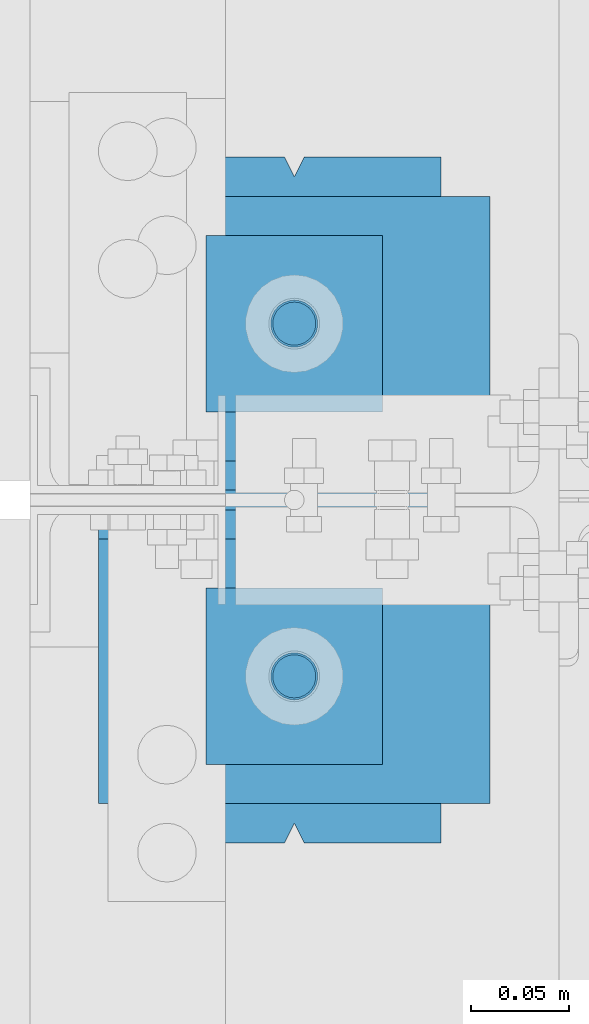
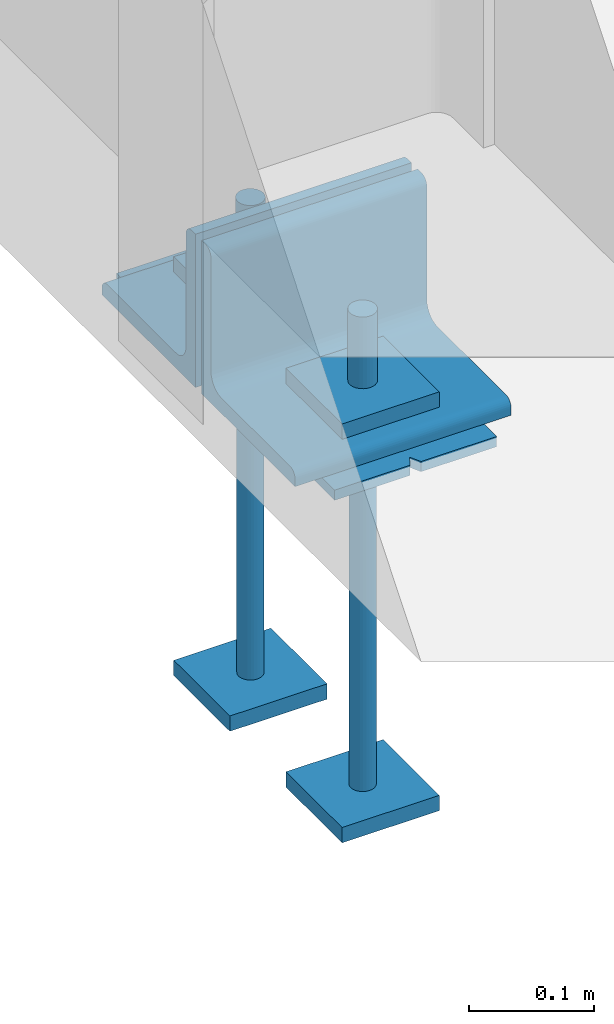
# One storey, part 65 of 362: 11 beams, 3 elements without a shape of their own.
"""IFC2X3 building model written with IfcOpenShell, lengths in millimetres."""

import ifcopenshell
import ifcopenshell.guid

model = None  # the IFC model being written
_history = None  # IfcOwnerHistory: only IFC2X3 demands one
_inside = {}  # id of a spatial element -> (the spatial element, [elements in it])
_under = {}  # id of a project, library or spatial element -> (it, [spatial elements below it])
_declared = {}  # id of a project -> (the project, [libraries it declares])
_typed = {}  # id of a type object -> (the type object, [elements of that type])
_made_of = {}  # id of a material, layer set ... -> (it, [elements and type objects made of it])


def new_model(schema):
    """Start an empty IFC model of exactly this schema.

    Asked for "IFC4X3", IfcOpenShell would pick the latest addendum, in which some entities
    have other attributes; the version numbers below select the first issue.
    IFC2X3 requires an IfcOwnerHistory on every rooted entity: one is made here for all.
    """
    global model, _history
    if schema == "IFC4X3":
        model = ifcopenshell.file(schema_version=(4, 3, 0, 0))
    else:
        model = ifcopenshell.file(schema=schema)
    _inside.clear()
    _under.clear()
    _declared.clear()
    _typed.clear()
    _made_of.clear()
    _history = None
    if model.schema == "IFC2X3":
        org = make("IfcOrganization", Name="unknown")
        user = make(
            "IfcPersonAndOrganization",
            ThePerson=make("IfcPerson", FamilyName="unknown"),
            TheOrganization=org,
        )
        app = make(
            "IfcApplication",
            ApplicationDeveloper=org,
            Version="unknown",
            ApplicationFullName="unknown",
            ApplicationIdentifier="unknown",
        )
        _history = make(
            "IfcOwnerHistory",
            OwningUser=user,
            OwningApplication=app,
            ChangeAction="ADDED",
            CreationDate=0,
        )
    return model


def make(cls, **values):
    """One entity of the class cls with the attributes given. An attribute that is None is left unset."""
    return model.create_entity(
        cls, **{name: value for name, value in values.items() if value is not None}
    )


def rooted(cls, **values):
    """An entity with a GlobalId (a new one), such as an element, a storey or a relation."""
    return make(cls, GlobalId=ifcopenshell.guid.new(), OwnerHistory=_history, **values)


def si_unit(unit_type, name, prefix=None):
    """IfcSIUnit, for example si_unit("LENGTHUNIT", "METRE", prefix="MILLI")."""
    return make("IfcSIUnit", UnitType=unit_type, Prefix=prefix, Name=name)


def assignment(units):
    """IfcUnitAssignment: the units of a project."""
    return None if units is None else make("IfcUnitAssignment", Units=units)


def point(xyz):
    """IfcCartesianPoint."""
    return None if xyz is None else make("IfcCartesianPoint", Coordinates=xyz)


def direction(xyz):
    """IfcDirection."""
    return None if xyz is None else make("IfcDirection", DirectionRatios=xyz)


def frame(location, z_axis=None, x_axis=None):
    """IfcAxis2Placement3D, a coordinate frame: its origin and axes. An axis left out is left unset."""
    return make(
        "IfcAxis2Placement3D",
        Location=point(location),
        Axis=direction(z_axis),
        RefDirection=direction(x_axis),
    )


def frame_2d(location, x_axis=None):
    """IfcAxis2Placement2D, a coordinate frame in the plane: its origin and x axis."""
    return make(
        "IfcAxis2Placement2D", Location=point(location), RefDirection=direction(x_axis)
    )


def origin_with_axes():
    """The frame at (0, 0, 0) with the z axis (0, 0, 1) and the x axis (1, 0, 0) written out."""
    return frame((0.0, 0.0, 0.0), z_axis=(0.0, 0.0, 1.0), x_axis=(1.0, 0.0, 0.0))


def origin_2d_with_axis():
    """The frame at (0, 0) in the plane with the x axis (1, 0) written out."""
    return frame_2d((0.0, 0.0), x_axis=(1.0, 0.0))


def place(relative_to, where):
    """IfcLocalPlacement: puts the frame where relative to a parent placement (None: the world)."""
    return make(
        "IfcLocalPlacement", PlacementRelTo=relative_to, RelativePlacement=where
    )


def context(
    kind, dimensions, precision=None, world=None, true_north=None, identifier=None
):
    """IfcGeometricRepresentationContext, for example the 3D "Model" context."""
    return make(
        "IfcGeometricRepresentationContext",
        ContextIdentifier=identifier,
        ContextType=kind,
        CoordinateSpaceDimension=dimensions,
        Precision=precision,
        WorldCoordinateSystem=world,
        TrueNorth=true_north,
    )


def subcontext(parent, identifier, kind, view, scale=None):
    """IfcGeometricRepresentationSubContext, for example "Body" below "Model"."""
    return make(
        "IfcGeometricRepresentationSubContext",
        ContextIdentifier=identifier,
        ContextType=kind,
        ParentContext=parent,
        TargetScale=scale,
        TargetView=view,
    )


def project(units=None, contexts=None):
    """IfcProject with its units and contexts."""
    return rooted(
        "IfcProject",
        Name="project",
        RepresentationContexts=contexts,
        UnitsInContext=assignment(units),
    )


def spatial(cls, under=None, at=None, **own):
    """A site, building, storey or space (cls), placed at a placement, below another one or the project."""
    s = rooted(cls, ObjectPlacement=at, **own)
    if under is not None:
        _under.setdefault(under.id(), (under, []))[1].append(s)
    return s


def polyline(points):
    """IfcPolyline through the points."""
    return make("IfcPolyline", Points=[point(p) for p in points])


def profile(cls, at=None, kind="AREA", **sizes):
    """A parametric profile (cls). Its sizes go by their IFC names, for example OverallWidth=200.0."""
    return make(cls, ProfileType=kind, Position=at, **sizes)


def rectangle(**sizes):
    """IfcRectangleProfileDef."""
    return profile("IfcRectangleProfileDef", **sizes)


def circle(**sizes):
    """IfcCircleProfileDef."""
    return profile("IfcCircleProfileDef", **sizes)


def l_section(**sizes):
    """IfcLShapeProfileDef."""
    return profile("IfcLShapeProfileDef", **sizes)


def outline(outer, holes=None, kind="AREA"):
    """IfcArbitraryClosedProfileDef: a profile drawn as a closed curve; with holes, ...WithVoids."""
    if holes is None:
        return make("IfcArbitraryClosedProfileDef", ProfileType=kind, OuterCurve=outer)
    return make(
        "IfcArbitraryProfileDefWithVoids",
        ProfileType=kind,
        OuterCurve=outer,
        InnerCurves=holes,
    )


def extrude(swept, where, along, depth):
    """IfcExtrudedAreaSolid: the profile swept, set in the frame where, extruded along a direction by depth."""
    return make(
        "IfcExtrudedAreaSolid",
        SweptArea=swept,
        Position=where,
        ExtrudedDirection=direction(along),
        Depth=depth,
    )


def boolean(op, a, b):
    """IfcBooleanResult of two solids."""
    return make("IfcBooleanResult", Operator=op, FirstOperand=a, SecondOperand=b)


def shape(context_of_items, identifier, shape_type, items):
    """IfcShapeRepresentation: the items that make up one representation, for example the "Body"."""
    return make(
        "IfcShapeRepresentation",
        ContextOfItems=context_of_items,
        RepresentationIdentifier=identifier,
        RepresentationType=shape_type,
        Items=items,
    )


def material(Name=None, Category=None):
    """IfcMaterial."""
    return make("IfcMaterial", Name=Name, Category=Category)


def made_of(thing, what):
    """Note that an element or type object is made of a material, layer set ...; save() writes the relation."""
    if what is not None:
        _made_of.setdefault(what.id(), (what, []))[1].append(thing)
    return thing


def type_object(cls, material=None, **own):
    """A type object (cls), such as IfcWallType, which elements share."""
    return made_of(rooted(cls, **own), material)


def element(
    cls,
    number,
    at=None,
    inside=None,
    cuts=None,
    type_object=None,
    material=None,
    context=None,
    identifier="Body",
    shape_type=None,
    held_by="IfcProductDefinitionShape",
    body=None,
    shapes=None,
    **own,
):
    """One element of the class cls, such as IfcWall. Its Tag is "e" and its number.

    at: its placement. inside: the storey or other place that contains it. cuts: it is an
    opening in that element (IfcRelVoidsElement). A single representation is given by context,
    identifier, shape_type and body (its items); several are given by shapes. held_by: the class
    of the entity that holds the representations. save() writes the other relations.
    """
    e = rooted(cls, Tag="e%d" % number, ObjectPlacement=at, **own)
    if body is not None:
        shapes = [shape(context, identifier, shape_type, body)]
    if shapes is not None:
        e.Representation = make(held_by, Representations=shapes)
    if inside is not None:
        _inside.setdefault(inside.id(), (inside, []))[1].append(e)
    if cuts is not None:
        rooted(
            "IfcRelVoidsElement", RelatingBuildingElement=cuts, RelatedOpeningElement=e
        )
    if type_object is not None:
        _typed.setdefault(type_object.id(), (type_object, []))[1].append(e)
    return made_of(e, material)


def aggregate(whole, parts):
    """IfcRelAggregates: a whole, such as a stair, and the parts it consists of."""
    return rooted("IfcRelAggregates", RelatingObject=whole, RelatedObjects=parts)


def save(model, path):
    """Write the relations noted so far, then the file.

    IfcRelAggregates (storeys below a building ...), IfcRelContainedInSpatialStructure (elements
    in a storey), IfcRelDefinesByType, IfcRelAssociatesMaterial and IfcRelDeclares: one each for
    every whole, place, type object, material and project.
    """
    for whole, parts in _under.values():
        aggregate(whole, parts)
    for where, things in _inside.values():
        rooted(
            "IfcRelContainedInSpatialStructure",
            RelatedElements=things,
            RelatingStructure=where,
        )
    for kind, things in _typed.values():
        rooted("IfcRelDefinesByType", RelatedObjects=things, RelatingType=kind)
    for what, things in _made_of.values():
        rooted("IfcRelAssociatesMaterial", RelatedObjects=things, RelatingMaterial=what)
    for by, libraries in _declared.values():
        rooted("IfcRelDeclares", RelatingContext=by, RelatedDefinitions=libraries)
    model.write(path)


model = new_model("IFC2X3")

# Units and contexts
model_context = context("Model", 3, precision=1e-05, world=origin_with_axes())
body_context = subcontext(model_context, "Body", "Model", "MODEL_VIEW")
ifc_project = project(units=[si_unit("LENGTHUNIT", "METRE", prefix="MILLI"), si_unit("AREAUNIT", "SQUARE_METRE"), si_unit("VOLUMEUNIT", "CUBIC_METRE"), si_unit("MASSUNIT", "GRAM", prefix="KILO"), si_unit("TIMEUNIT", "SECOND"), si_unit("PLANEANGLEUNIT", "RADIAN"), si_unit("SOLIDANGLEUNIT", "STERADIAN"), si_unit("THERMODYNAMICTEMPERATUREUNIT", "DEGREE_CELSIUS"), si_unit("LUMINOUSINTENSITYUNIT", "LUMEN")], contexts=[model_context])

# Site, building, storey
site_placement = place(None, origin_with_axes())
site = spatial("IfcSite", under=ifc_project, at=site_placement, Name="Undefined", CompositionType="ELEMENT")
building_placement = place(site_placement, origin_with_axes())
building = spatial("IfcBuilding", under=site, at=building_placement, Name="Undefined", CompositionType="ELEMENT")
storey_placement = place(building_placement, origin_with_axes())
storey = spatial("IfcBuildingStorey", under=building, at=storey_placement, Name="Undefined", CompositionType="ELEMENT", Elevation=0.0)

# Assembly, beams
assembly_1_placement = place(storey_placement, origin_with_axes())
assembly_1 = element("IfcElementAssembly", 1, at=assembly_1_placement, inside=storey, Name="PRESCELLEMENT PS24", AssemblyPlace="NOTDEFINED", PredefinedType="NOTDEFINED")
ifc_material = material(Name="Undefined/S235-E24")
beam_type_1 = type_object("IfcBeamType", Name="PL15*90", PredefinedType="NOTDEFINED")
beam_1_placement = place(assembly_1_placement, frame((0.0, 3754.99715044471, -177.5), z_axis=(0.0, 0.0, 1.0), x_axis=(-1.0, 0.0, 0.0)))
beam_1 = element("IfcBeam", 2, at=beam_1_placement, type_object=beam_type_1, material=ifc_material, Name="PLAQUETTE", ObjectType="PL15*90", context=body_context, shape_type="SweptSolid", body=[
    extrude(outline(polyline([(0.0, 0.0), (90.0, 0.0), (90.0, 90.0), (0.0, 90.0), (0.0, 0.0)])), frame((0.0, 0.0, -7.5), z_axis=(0.0, 0.0, 1.0), x_axis=(1.0, 0.0, 0.0)), (0.0, 0.0, 1.0), 15.0),
])
beam_2_placement = place(assembly_1_placement, frame((0.0, 3934.99715044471, -177.5), z_axis=(0.0, 0.0, 1.0), x_axis=(-1.0, 0.0, 0.0)))
beam_2 = element("IfcBeam", 3, at=beam_2_placement, type_object=beam_type_1, material=ifc_material, Name="PLAQUETTE", ObjectType="PL15*90", context=body_context, shape_type="SweptSolid", body=[
    extrude(outline(polyline([(0.0, 0.0), (90.0, 0.0), (90.0, 90.0), (0.0, 90.0), (0.0, 0.0)])), frame((0.0, 0.0, -7.5), z_axis=(0.0, 0.0, 1.0), x_axis=(1.0, 0.0, 0.0)), (0.0, 0.0, 1.0), 15.0),
])
beam_3_placement = place(assembly_1_placement, frame((0.0, 3754.99715044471, -572.5), z_axis=(0.0, 0.0, 1.0), x_axis=(-1.0, 0.0, 0.0)))
beam_3 = element("IfcBeam", 4, at=beam_3_placement, type_object=beam_type_1, material=ifc_material, Name="PLAQUETTE", ObjectType="PL15*90", context=body_context, shape_type="SweptSolid", body=[
    extrude(outline(polyline([(0.0, 0.0), (90.0, 0.0), (90.0, 90.0), (0.0, 90.0), (0.0, 0.0)])), frame((0.0, 0.0, -7.5), z_axis=(0.0, 0.0, 1.0), x_axis=(1.0, 0.0, 0.0)), (0.0, 0.0, 1.0), 15.0),
])
beam_4_placement = place(assembly_1_placement, frame((0.0, 3934.99715044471, -572.5), z_axis=(0.0, 0.0, 1.0), x_axis=(-1.0, 0.0, 0.0)))
beam_4 = element("IfcBeam", 5, at=beam_4_placement, type_object=beam_type_1, material=ifc_material, Name="PLAQUETTE", ObjectType="PL15*90", context=body_context, shape_type="SweptSolid", body=[
    extrude(outline(polyline([(0.0, 0.0), (90.0, 0.0), (90.0, 90.0), (0.0, 90.0), (0.0, 0.0)])), frame((0.0, 0.0, -7.5), z_axis=(0.0, 0.0, 1.0), x_axis=(1.0, 0.0, 0.0)), (0.0, 0.0, 1.0), 15.0),
])
beam_type_2 = type_object("IfcBeamType", Name="D24", PredefinedType="NOTDEFINED")
beam_5_placement = place(assembly_1_placement, frame((-45.0, 3709.99715044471, -100.0), z_axis=(-1.0, 0.0, 0.0), x_axis=(0.0, 0.0, -1.0)))
beam_5 = element("IfcBeam", 6, at=beam_5_placement, type_object=beam_type_2, material=ifc_material, Name="TIGE D'ANCRAGE", ObjectType="D24", context=body_context, shape_type="SweptSolid", body=[
    extrude(circle(Radius=12.0, at=origin_2d_with_axis()), frame((150.0, 0.0, 0.0), z_axis=(-1.0, 0.0, 0.0), x_axis=(0.0, -1.0, 0.0)), (0.0, 0.0, 1.0), 150.0),
])
beam_6_placement = place(assembly_1_placement, frame((-45.0, 3889.99715044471, -100.0), z_axis=(-1.0, 0.0, 0.0), x_axis=(0.0, 0.0, -1.0)))
beam_6 = element("IfcBeam", 7, at=beam_6_placement, type_object=beam_type_2, material=ifc_material, Name="TIGE D'ANCRAGE", ObjectType="D24", context=body_context, shape_type="SweptSolid", body=[
    extrude(circle(Radius=12.0, at=origin_2d_with_axis()), frame((150.0, 0.0, 0.0), z_axis=(-1.0, 0.0, 0.0), x_axis=(0.0, -1.0, 0.0)), (0.0, 0.0, 1.0), 150.0),
])
beam_type_3 = type_object("IfcBeamType", Name="D22", PredefinedType="NOTDEFINED")
beam_7_placement = place(assembly_1_placement, frame((-45.0, 3709.99715044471, -250.0), z_axis=(-1.0, 0.0, 0.0), x_axis=(0.0, 0.0, -1.0)))
beam_7 = element("IfcBeam", 8, at=beam_7_placement, type_object=beam_type_3, material=ifc_material, Name="TIGE D'ANCRAGE", ObjectType="D22", context=body_context, shape_type="SweptSolid", body=[
    extrude(circle(Radius=11.0, at=origin_2d_with_axis()), frame((350.0, 0.0, 0.0), z_axis=(-1.0, 0.0, 0.0), x_axis=(0.0, -1.0, 0.0)), (0.0, 0.0, 1.0), 350.0),
])
beam_8_placement = place(assembly_1_placement, frame((-45.0, 3889.99715044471, -250.0), z_axis=(-1.0, 0.0, 0.0), x_axis=(0.0, 0.0, -1.0)))
beam_8 = element("IfcBeam", 9, at=beam_8_placement, type_object=beam_type_3, material=ifc_material, Name="TIGE D'ANCRAGE", ObjectType="D22", context=body_context, shape_type="SweptSolid", body=[
    extrude(circle(Radius=11.0, at=origin_2d_with_axis()), frame((350.0, 0.0, 0.0), z_axis=(-1.0, 0.0, 0.0), x_axis=(0.0, -1.0, 0.0)), (0.0, 0.0, 1.0), 350.0),
])
beam_type_4 = type_object("IfcBeamType", Name="PL10*150", PredefinedType="NOTDEFINED")
beam_9_placement = place(assembly_1_placement, frame((-45.0, 3975.0, -205.0), z_axis=(1.0, 0.0, 0.0), x_axis=(0.0, -1.0, 0.0)))
beam_9 = element("IfcBeam", 10, at=beam_9_placement, type_object=beam_type_4, material=ifc_material, Name="PRESCELLEMENT PS24", ObjectType="PL10*150", context=body_context, shape_type="CSG", body=[
    boolean("DIFFERENCE", boolean("DIFFERENCE", boolean("DIFFERENCE", boolean("DIFFERENCE", extrude(rectangle(XDim=10.0, YDim=150.0, at=origin_2d_with_axis()), frame((350.0, 0.0, 0.0), z_axis=(-1.0, 0.0, 0.0), x_axis=(0.0, -1.0, 0.0)), (0.0, 0.0, 1.0), 350.0), extrude(outline(polyline([(0.0, 0.0), (11.1803398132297, 1.2732925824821e-11), (4.47213602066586, 8.94427204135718), (0.0, 0.0)])), frame((0.0, 7.5, -5.0), z_axis=(0.0, -1.0, 0.0), x_axis=(0.894427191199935, 0.0, 0.44721359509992)), (0.0, 0.0, 1.0), 15.0)), extrude(outline(polyline([(0.0, 0.0), (11.1803398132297, 1.2732925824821e-11), (4.47213602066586, 8.94427204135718), (0.0, 0.0)])), frame((180.0, 7.5, -75.0), z_axis=(0.0, -1.0, 0.0), x_axis=(-0.447213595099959, 0.0, 0.894427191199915)), (0.0, 0.0, 1.0), 15.0)), extrude(outline(polyline([(0.0, 0.0), (11.1803398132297, 1.2732925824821e-11), (6.70820379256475, 8.94427204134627), (0.0, 0.0)])), frame((340.0, 7.5, 0.0), z_axis=(0.0, -1.0, 0.0), x_axis=(0.894427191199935, 0.0, -0.44721359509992)), (0.0, 0.0, 1.0), 15.0)), extrude(outline(polyline([(0.0, 0.0), (11.1803398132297, 1.2732925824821e-11), (4.47213602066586, 8.94427204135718), (0.0, 0.0)])), frame((170.0, 7.5, 75.0), z_axis=(0.0, -1.0, 0.0), x_axis=(0.447213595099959, 0.0, -0.894427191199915)), (0.0, 0.0, 1.0), 15.0)),
])
aggregate(assembly_1, [beam_1, beam_2, beam_3, beam_4, beam_5, beam_7, beam_6, beam_8, beam_9])

# Assembly, beam
assembly_2_placement = place(storey_placement, origin_with_axes())
assembly_2 = element("IfcElementAssembly", 11, at=assembly_2_placement, inside=storey, AssemblyPlace="NOTDEFINED", PredefinedType="NOTDEFINED")
beam_type_5 = type_object("IfcBeamType", Name="L150*15", PredefinedType="NOTDEFINED")
beam_10_placement = place(assembly_2_placement, frame((55.0, 3880.0, -125.0), z_axis=(0.0, 0.0, 1.0), x_axis=(-1.0, 0.0, 0.0)))
beam_10 = element("IfcBeam", 12, at=beam_10_placement, type_object=beam_type_5, material=ifc_material, Name="ATTACHE", ObjectType="L150*15", context=body_context, shape_type="SweptSolid", body=[
    extrude(l_section(Depth=150.0, Width=150.0, Thickness=15.0, FilletRadius=16.0, EdgeRadius=8.0, at=origin_2d_with_axis()), frame((200.0, 0.0, 0.0), z_axis=(-1.0, 0.0, 0.0), x_axis=(0.0, -1.0, 0.0)), (0.0, 0.0, 1.0), 200.0),
])
aggregate(assembly_2, [beam_10])

assembly_3_placement = place(storey_placement, origin_with_axes())
assembly_3 = element("IfcElementAssembly", 13, at=assembly_3_placement, inside=storey, AssemblyPlace="NOTDEFINED", PredefinedType="NOTDEFINED")
beam_11_placement = place(assembly_3_placement, frame((-145.0, 3720.0, -125.0), z_axis=(0.0, 0.0, 1.0), x_axis=(1.0, 0.0, 0.0)))
beam_11 = element("IfcBeam", 14, at=beam_11_placement, type_object=beam_type_5, material=ifc_material, Name="ATTACHE", ObjectType="L150*15", context=body_context, shape_type="SweptSolid", body=[
    extrude(l_section(Depth=150.0, Width=150.0, Thickness=15.0, FilletRadius=16.0, EdgeRadius=8.0, at=origin_2d_with_axis()), frame((200.0, 0.0, 0.0), z_axis=(-1.0, 0.0, 0.0), x_axis=(0.0, -1.0, 0.0)), (0.0, 0.0, 1.0), 200.0),
])
aggregate(assembly_3, [beam_11])

save(model, "model.ifc")
